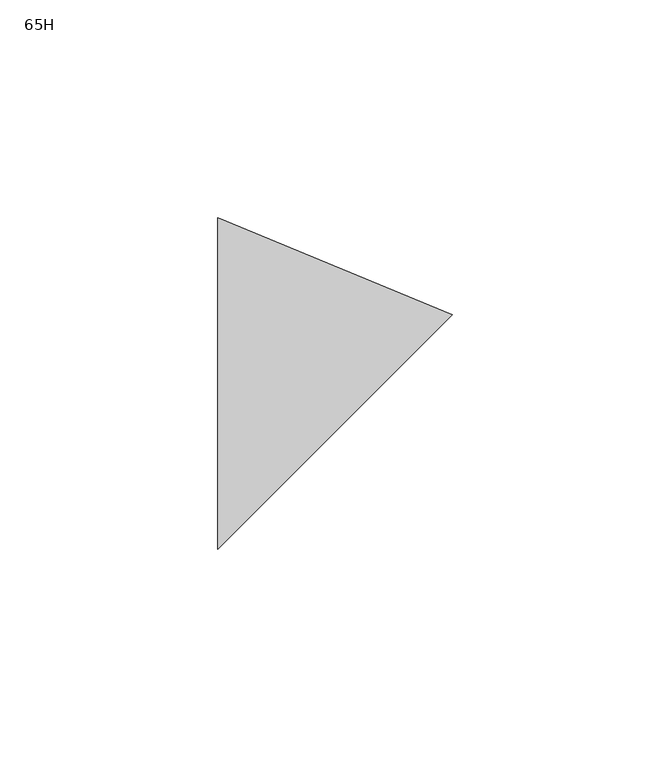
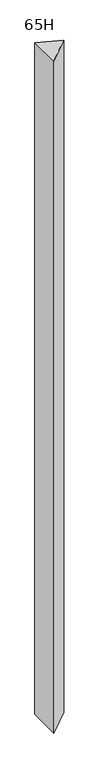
"""IFC4 building model written with IfcOpenShell, lengths in millimetres: furniture geometry, Steelcase - Montage - Junction - V - Same-Height : 65H."""

import ifcopenshell
import ifcopenshell.guid

model = None  # the IFC model being written
_history = None  # IfcOwnerHistory: only IFC2X3 demands one
_inside = {}  # id of a spatial element -> (the spatial element, [elements in it])
_under = {}  # id of a project, library or spatial element -> (it, [spatial elements below it])
_declared = {}  # id of a project -> (the project, [libraries it declares])
_typed = {}  # id of a type object -> (the type object, [elements of that type])
_made_of = {}  # id of a material, layer set ... -> (it, [elements and type objects made of it])


def new_model(schema):
    """Start an empty IFC model of exactly this schema.

    Asked for "IFC4X3", IfcOpenShell would pick the latest addendum, in which some entities
    have other attributes; the version numbers below select the first issue.
    IFC2X3 requires an IfcOwnerHistory on every rooted entity: one is made here for all.
    """
    global model, _history
    if schema == "IFC4X3":
        model = ifcopenshell.file(schema_version=(4, 3, 0, 0))
    else:
        model = ifcopenshell.file(schema=schema)
    _inside.clear()
    _under.clear()
    _declared.clear()
    _typed.clear()
    _made_of.clear()
    _history = None
    if model.schema == "IFC2X3":
        org = make("IfcOrganization", Name="unknown")
        user = make(
            "IfcPersonAndOrganization",
            ThePerson=make("IfcPerson", FamilyName="unknown"),
            TheOrganization=org,
        )
        app = make(
            "IfcApplication",
            ApplicationDeveloper=org,
            Version="unknown",
            ApplicationFullName="unknown",
            ApplicationIdentifier="unknown",
        )
        _history = make(
            "IfcOwnerHistory",
            OwningUser=user,
            OwningApplication=app,
            ChangeAction="ADDED",
            CreationDate=0,
        )
    return model


def make(cls, **values):
    """One entity of the class cls with the attributes given. An attribute that is None is left unset."""
    return model.create_entity(
        cls, **{name: value for name, value in values.items() if value is not None}
    )


def rooted(cls, **values):
    """An entity with a GlobalId (a new one), such as an element, a storey or a relation."""
    return make(cls, GlobalId=ifcopenshell.guid.new(), OwnerHistory=_history, **values)


def si_unit(unit_type, name, prefix=None):
    """IfcSIUnit, for example si_unit("LENGTHUNIT", "METRE", prefix="MILLI")."""
    return make("IfcSIUnit", UnitType=unit_type, Prefix=prefix, Name=name)


def assignment(units):
    """IfcUnitAssignment: the units of a project."""
    return None if units is None else make("IfcUnitAssignment", Units=units)


def point(xyz):
    """IfcCartesianPoint."""
    return None if xyz is None else make("IfcCartesianPoint", Coordinates=xyz)


def direction(xyz):
    """IfcDirection."""
    return None if xyz is None else make("IfcDirection", DirectionRatios=xyz)


def frame(location, z_axis=None, x_axis=None):
    """IfcAxis2Placement3D, a coordinate frame: its origin and axes. An axis left out is left unset."""
    return make(
        "IfcAxis2Placement3D",
        Location=point(location),
        Axis=direction(z_axis),
        RefDirection=direction(x_axis),
    )


def origin():
    """The frame at (0, 0, 0) with its axes left unset."""
    return frame((0.0, 0.0, 0.0))


def place(relative_to, where):
    """IfcLocalPlacement: puts the frame where relative to a parent placement (None: the world)."""
    return make(
        "IfcLocalPlacement", PlacementRelTo=relative_to, RelativePlacement=where
    )


def context(
    kind, dimensions, precision=None, world=None, true_north=None, identifier=None
):
    """IfcGeometricRepresentationContext, for example the 3D "Model" context."""
    return make(
        "IfcGeometricRepresentationContext",
        ContextIdentifier=identifier,
        ContextType=kind,
        CoordinateSpaceDimension=dimensions,
        Precision=precision,
        WorldCoordinateSystem=world,
        TrueNorth=true_north,
    )


def project(units=None, contexts=None):
    """IfcProject with its units and contexts."""
    return rooted(
        "IfcProject",
        Name="project",
        RepresentationContexts=contexts,
        UnitsInContext=assignment(units),
    )


def spatial(cls, under=None, at=None, **own):
    """A site, building, storey or space (cls), placed at a placement, below another one or the project."""
    s = rooted(cls, ObjectPlacement=at, **own)
    if under is not None:
        _under.setdefault(under.id(), (under, []))[1].append(s)
    return s


def polyline(points):
    """IfcPolyline through the points."""
    return make("IfcPolyline", Points=[point(p) for p in points])


def outline(outer, holes=None, kind="AREA"):
    """IfcArbitraryClosedProfileDef: a profile drawn as a closed curve; with holes, ...WithVoids."""
    if holes is None:
        return make("IfcArbitraryClosedProfileDef", ProfileType=kind, OuterCurve=outer)
    return make(
        "IfcArbitraryProfileDefWithVoids",
        ProfileType=kind,
        OuterCurve=outer,
        InnerCurves=holes,
    )


def extrude(swept, where, along, depth):
    """IfcExtrudedAreaSolid: the profile swept, set in the frame where, extruded along a direction by depth."""
    return make(
        "IfcExtrudedAreaSolid",
        SweptArea=swept,
        Position=where,
        ExtrudedDirection=direction(along),
        Depth=depth,
    )


def shape(context_of_items, identifier, shape_type, items):
    """IfcShapeRepresentation: the items that make up one representation, for example the "Body"."""
    return make(
        "IfcShapeRepresentation",
        ContextOfItems=context_of_items,
        RepresentationIdentifier=identifier,
        RepresentationType=shape_type,
        Items=items,
    )


def source(mapping_origin, context_of_items, identifier, shape_type, items):
    """IfcRepresentationMap: a shape defined once, which mapped items show again and again."""
    return make(
        "IfcRepresentationMap",
        MappingOrigin=mapping_origin,
        MappedRepresentation=shape(context_of_items, identifier, shape_type, items),
    )


def transform(
    local_origin,
    x_axis=None,
    y_axis=None,
    z_axis=None,
    scale=None,
    scale2=None,
    scale3=None,
    uniform=True,
):
    """IfcCartesianTransformationOperator3D, or its non-uniform kind. x_axis, y_axis, z_axis: its Axis1, 2, 3."""
    if uniform:
        return make(
            "IfcCartesianTransformationOperator3D",
            Axis1=direction(x_axis),
            Axis2=direction(y_axis),
            LocalOrigin=point(local_origin),
            Scale=scale,
            Axis3=direction(z_axis),
        )
    return make(
        "IfcCartesianTransformationOperator3DnonUniform",
        Axis1=direction(x_axis),
        Axis2=direction(y_axis),
        LocalOrigin=point(local_origin),
        Scale=scale,
        Axis3=direction(z_axis),
        Scale2=scale2,
        Scale3=scale3,
    )


def mapped(mapping_source, mapping_target):
    """IfcMappedItem: shows the shape of a source again, moved by a transform."""
    return make(
        "IfcMappedItem", MappingSource=mapping_source, MappingTarget=mapping_target
    )


def made_of(thing, what):
    """Note that an element or type object is made of a material, layer set ...; save() writes the relation."""
    if what is not None:
        _made_of.setdefault(what.id(), (what, []))[1].append(thing)
    return thing


def element(
    cls,
    number,
    at=None,
    inside=None,
    cuts=None,
    type_object=None,
    material=None,
    context=None,
    identifier="Body",
    shape_type=None,
    held_by="IfcProductDefinitionShape",
    body=None,
    shapes=None,
    **own,
):
    """One element of the class cls, such as IfcWall. Its Tag is "e" and its number.

    at: its placement. inside: the storey or other place that contains it. cuts: it is an
    opening in that element (IfcRelVoidsElement). A single representation is given by context,
    identifier, shape_type and body (its items); several are given by shapes. held_by: the class
    of the entity that holds the representations. save() writes the other relations.
    """
    e = rooted(cls, Tag="e%d" % number, ObjectPlacement=at, **own)
    if body is not None:
        shapes = [shape(context, identifier, shape_type, body)]
    if shapes is not None:
        e.Representation = make(held_by, Representations=shapes)
    if inside is not None:
        _inside.setdefault(inside.id(), (inside, []))[1].append(e)
    if cuts is not None:
        rooted(
            "IfcRelVoidsElement", RelatingBuildingElement=cuts, RelatedOpeningElement=e
        )
    if type_object is not None:
        _typed.setdefault(type_object.id(), (type_object, []))[1].append(e)
    return made_of(e, material)


def aggregate(whole, parts):
    """IfcRelAggregates: a whole, such as a stair, and the parts it consists of."""
    return rooted("IfcRelAggregates", RelatingObject=whole, RelatedObjects=parts)


def save(model, path):
    """Write the relations noted so far, then the file.

    IfcRelAggregates (storeys below a building ...), IfcRelContainedInSpatialStructure (elements
    in a storey), IfcRelDefinesByType, IfcRelAssociatesMaterial and IfcRelDeclares: one each for
    every whole, place, type object, material and project.
    """
    for whole, parts in _under.values():
        aggregate(whole, parts)
    for where, things in _inside.values():
        rooted(
            "IfcRelContainedInSpatialStructure",
            RelatedElements=things,
            RelatingStructure=where,
        )
    for kind, things in _typed.values():
        rooted("IfcRelDefinesByType", RelatedObjects=things, RelatingType=kind)
    for what, things in _made_of.values():
        rooted("IfcRelAssociatesMaterial", RelatedObjects=things, RelatingMaterial=what)
    for by, libraries in _declared.values():
        rooted("IfcRelDeclares", RelatingContext=by, RelatedDefinitions=libraries)
    model.write(path)


def furniture_65h_cf35a967(model_context):
    return source(origin(), model_context, "Body", "SweptSolid", [
        extrude(outline(polyline([(457.2, -38.1000015), (457.2, 38.1000015), (511.0815367, 15.7815352), (457.2, -38.1000015)])), frame((0.0, 0.0, 3.9624), z_axis=(0.0, 0.0, 1.0), x_axis=(1.0, 0.0, 0.0)), (0.0, 0.0, 1.0), 1656.5626),
    ])


if __name__ == "__main__":
    model = new_model("IFC4")
    model_context = context("Model", 3, world=origin())
    ifc_project = project(units=[si_unit("LENGTHUNIT", "METRE", prefix="MILLI")], contexts=[model_context])
    site = spatial("IfcSite", under=ifc_project)
    building = spatial("IfcBuilding", under=site)
    placement = place(None, origin())
    furniture_65h_shape = furniture_65h_cf35a967(model_context)
    element("IfcFurniture", 1, ObjectType="Steelcase - Montage - Junction - V - Same-Height : 65H", at=placement, inside=building, context=model_context, shape_type="MappedRepresentation", body=[
        mapped(furniture_65h_shape, transform((0.0, 0.0, 0.0), x_axis=(1.0, 0.0, 0.0), y_axis=(0.0, 1.0, 0.0), z_axis=(0.0, 0.0, 1.0))),
    ])
    save(model, "model.ifc")
